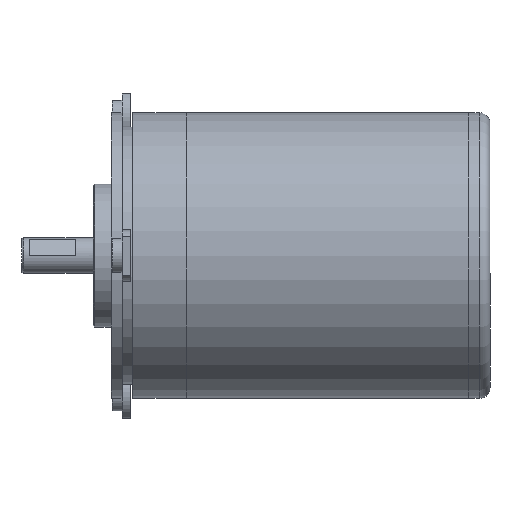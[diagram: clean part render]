
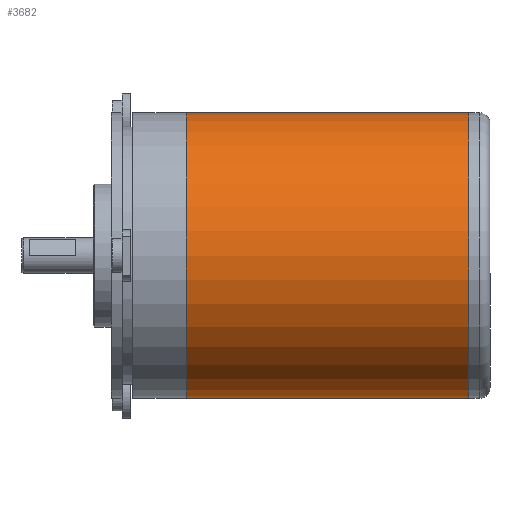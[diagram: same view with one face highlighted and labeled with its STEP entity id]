
A CAD part, front view. The second image highlights one B-rep face of the part: STEP entity #3682.
In plain terms, the highlighted cylindrical face has radius 40 mm (diameter 80 mm), a full revolution.
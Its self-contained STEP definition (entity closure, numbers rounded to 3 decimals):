
#195=LINE('',#5989,#354);
#197=LINE('',#5993,#356);
#354=VECTOR('',#4785,1000.);
#356=VECTOR('',#4787,1000.);
#541=CYLINDRICAL_SURFACE('',#4158,40.);
#775=ORIENTED_EDGE('',*,*,#1617,.T.);
#776=ORIENTED_EDGE('',*,*,#1616,.F.);
#777=ORIENTED_EDGE('',*,*,#1597,.T.);
#778=ORIENTED_EDGE('',*,*,#1598,.T.);
#779=ORIENTED_EDGE('',*,*,#1595,.F.);
#780=ORIENTED_EDGE('',*,*,#1594,.T.);
#1594=EDGE_CURVE('',#2771,#2772,#2052,.T.);
#1595=EDGE_CURVE('',#2771,#2773,#195,.T.);
#1597=EDGE_CURVE('',#2772,#2774,#197,.T.);
#1598=EDGE_CURVE('',#2774,#2773,#2053,.T.);
#1616=EDGE_CURVE('',#2792,#2792,#2071,.T.);
#1617=EDGE_CURVE('',#2793,#2793,#2072,.T.);
#2052=CIRCLE('',#4119,40.);
#2053=CIRCLE('',#4122,40.);
#2071=CIRCLE('',#4157,40.);
#2072=CIRCLE('',#4159,40.);
#2402=EDGE_LOOP('',(#775));
#2403=EDGE_LOOP('',(#776));
#2404=EDGE_LOOP('',(#777,#778,#779,#780));
#2771=VERTEX_POINT('',#5985);
#2772=VERTEX_POINT('',#5986);
#2773=VERTEX_POINT('',#5990);
#2774=VERTEX_POINT('',#5992);
#2792=VERTEX_POINT('',#6048);
#2793=VERTEX_POINT('',#6051);
#3239=FACE_BOUND('',#2402,.T.);
#3240=FACE_BOUND('',#2403,.T.);
#3241=FACE_BOUND('',#2404,.T.);
#3682=ADVANCED_FACE('',(#3239,#3240,#3241),#541,.T.);
#4119=AXIS2_PLACEMENT_3D('',#5987,#4781,#4782);
#4122=AXIS2_PLACEMENT_3D('',#5995,#4790,#4791);
#4157=AXIS2_PLACEMENT_3D('',#6047,#4860,#4861);
#4158=AXIS2_PLACEMENT_3D('',#6049,#4862,#4863);
#4159=AXIS2_PLACEMENT_3D('',#6050,#4864,#4865);
#4781=DIRECTION('',(-1.,0.,0.));
#4782=DIRECTION('',(0.,1.,0.));
#4785=DIRECTION('',(1.,0.,0.));
#4787=DIRECTION('',(1.,0.,0.));
#4790=DIRECTION('',(1.,0.,0.));
#4791=DIRECTION('',(0.,-1.,0.));
#4860=DIRECTION('',(1.,0.,0.));
#4861=DIRECTION('',(0.,-1.,0.));
#4862=DIRECTION('',(1.,0.,0.));
#4863=DIRECTION('',(0.,-1.,0.));
#4864=DIRECTION('',(1.,0.,0.));
#4865=DIRECTION('',(0.,-1.,0.));
#5985=CARTESIAN_POINT('',(60.,36.001,17.434));
#5986=CARTESIAN_POINT('',(60.,35.999,-17.437));
#5987=CARTESIAN_POINT('',(60.,0.,0.));
#5989=CARTESIAN_POINT('',(93.,36.001,17.434));
#5990=CARTESIAN_POINT('',(94.,36.001,17.434));
#5992=CARTESIAN_POINT('',(94.,35.999,-17.437));
#5993=CARTESIAN_POINT('',(93.,35.999,-17.437));
#5995=CARTESIAN_POINT('',(94.,0.,0.));
#6047=CARTESIAN_POINT('',(105.,0.,0.));
#6048=CARTESIAN_POINT('',(105.,-40.,0.002));
#6049=CARTESIAN_POINT('',(93.,0.,0.));
#6050=CARTESIAN_POINT('',(26.,0.,0.));
#6051=CARTESIAN_POINT('',(26.,-40.,0.002));
